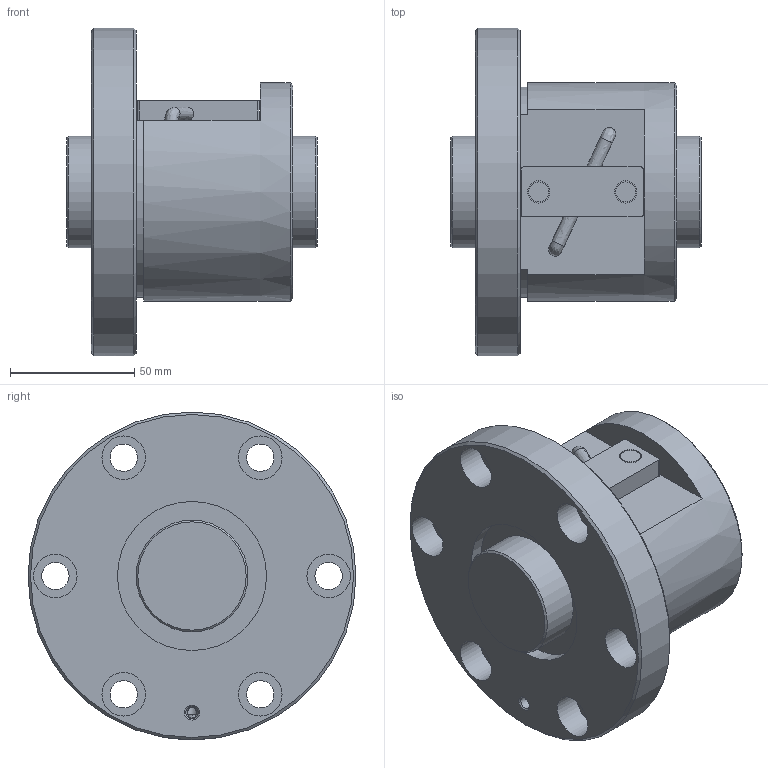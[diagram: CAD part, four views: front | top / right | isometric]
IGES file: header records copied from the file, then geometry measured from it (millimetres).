
Start section: Data from Parasolid IGES Translator 26.0.171, Copyright(c) 2006 Siemens PLM Software. All Rights Reserved.
Global section: file name: BNF4510V-2.5RRG1+101LC0_000_rev.igs; native system: By Siemens PLM Incorporated; preprocessor: XPlus GENERIC/IGES 26.0.171; author: Noname; organization: Noname; date: 20240806.085434; units: millimetre
Bounding box: 101 x 132 x 132 mm (x, y, z)
Surface area: 85806.9 mm2 (no closed solid volume)
Topology: 0 solids, 0 shells, 71 faces, 328 edges, 288 vertices
Faces by surface type: revolution 44, extrusion 27
